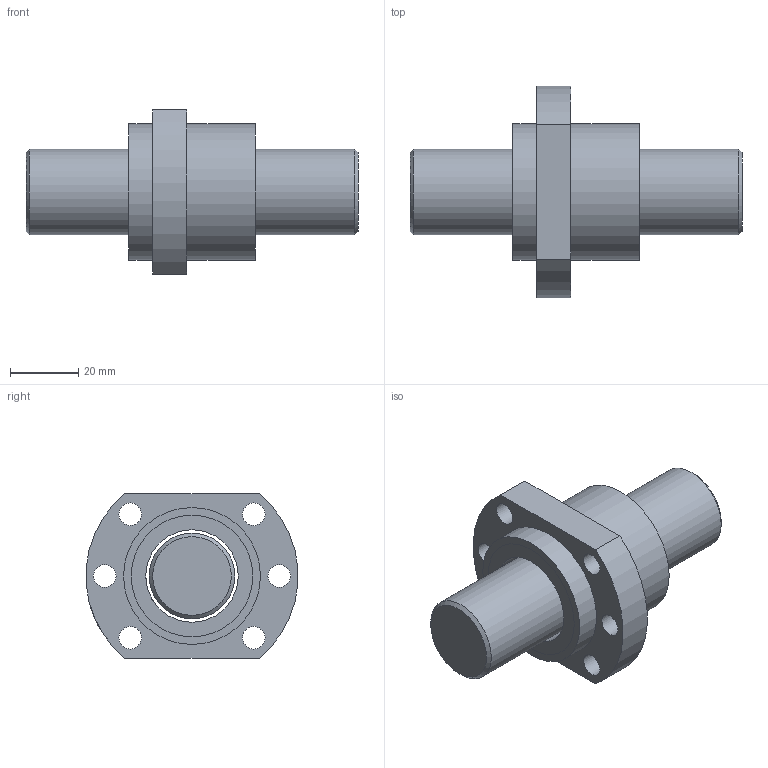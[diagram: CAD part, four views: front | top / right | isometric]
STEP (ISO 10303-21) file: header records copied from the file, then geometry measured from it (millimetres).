
FILE_DESCRIPTION (( 'STEP AP203' ), '1' );
FILE_NAME ('SFNH2505-3.8.STEP', '2023-07-28T01:51:15', ( '' ), ( '' ), 'SwSTEP 2.0', 'SolidWorks 2022', '' );
FILE_SCHEMA (( 'CONFIG_CONTROL_DESIGN' ));
Length unit declared in the file: millimetre
Products named in the file (1): SFNH2505-3.8
Bounding box: 97 x 61.8 x 48 mm (x, y, z)
Volume: 84375 mm3; surface area: 27574.3 mm2
Topology: 4 solids, 4 shells, 62 faces, 124 edges, 82 vertices
Faces by surface type: cylinder 33, plane 23, cone 3, bspline 3
Full cylindrical faces by diameter (mm): 4 x1, 5 x5, 6.6 x6, 25 x1, 27 x3, 32 x4, 35.5 x4, 37 x4, 40 x2
Entity records: 2516 total; most frequent: CARTESIAN_POINT 1352, DIRECTION 234, ORIENTED_EDGE 154, EDGE_LOOP 118, AXIS2_PLACEMENT_3D 111, FACE_OUTER_BOUND 83, EDGE_CURVE 77, VERTEX_POINT 69
